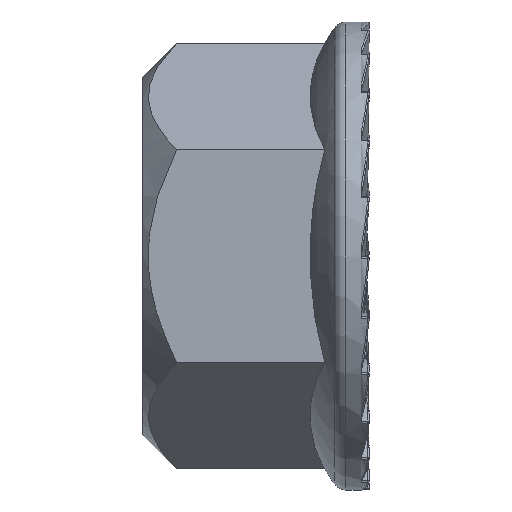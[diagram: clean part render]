
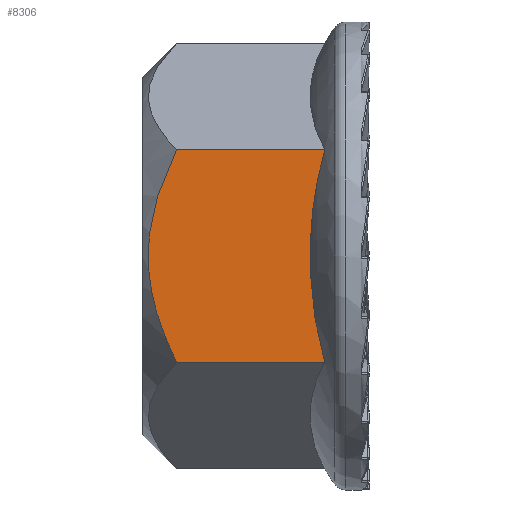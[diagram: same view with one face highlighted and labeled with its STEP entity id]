
A CAD part, left-side view. The second image highlights one B-rep face of the part: STEP entity #8306.
In plain terms, the highlighted planar face has unit normal (-1, 0, 0).
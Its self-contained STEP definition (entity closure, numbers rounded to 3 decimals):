
#76 = AXIS2_PLACEMENT_3D ( 'NONE', #8325, #12414, #1954 ) ;
#109 = CARTESIAN_POINT ( 'NONE',  ( -6.5, 7.48, -0.655 ) ) ;
#239 = CARTESIAN_POINT ( 'NONE',  ( -6.5, 7.314, -1.618 ) ) ;
#472 = CARTESIAN_POINT ( 'NONE',  ( -6.5, 1.28, 3.753 ) ) ;
#622 = VERTEX_POINT ( 'NONE', #472 ) ;
#701 = EDGE_CURVE ( 'NONE', #4524, #622, #6350, .T. ) ;
#747 = B_SPLINE_CURVE_WITH_KNOTS ( 'NONE', 3,
 ( #3367, #2282, #8363, #9397, #8298, #7492, #5376, #10337, #109, #8496, #239, #4248, #7353, #1133 ),
 .UNSPECIFIED., .F., .F.,
 ( 4, 2, 2, 2, 2, 2, 4 ),
 ( 0.009, 0.01, 0.011, 0.013, 0.014, 0.015, 0.017 ),
 .UNSPECIFIED. ) ;
#927 = EDGE_LOOP ( 'NONE', ( #8316, #5084, #11136, #12974 ) ) ;
#1133 = CARTESIAN_POINT ( 'NONE',  ( -6.5, 6.5, -3.753 ) ) ;
#1933 = CARTESIAN_POINT ( 'NONE',  ( -6.5, 1.8, 0.63 ) ) ;
#1954 = DIRECTION ( 'NONE',  ( 0., 0., -1. ) ) ;
#2282 = CARTESIAN_POINT ( 'NONE',  ( -6.5, 6.645, 3.462 ) ) ;
#3020 = CARTESIAN_POINT ( 'NONE',  ( -6.5, 1.459, 3.145 ) ) ;
#3192 = CARTESIAN_POINT ( 'NONE',  ( -6.5, 6.5, 3.753 ) ) ;
#3367 = CARTESIAN_POINT ( 'NONE',  ( -6.5, 6.5, 3.753 ) ) ;
#3487 = VECTOR ( 'NONE', #5324, 1000. ) ;
#4248 = CARTESIAN_POINT ( 'NONE',  ( -6.5, 7.047, -2.557 ) ) ;
#4524 = VERTEX_POINT ( 'NONE', #3192 ) ;
#5051 = CARTESIAN_POINT ( 'NONE',  ( -6.5, 1.759, -1.261 ) ) ;
#5084 = ORIENTED_EDGE ( 'NONE', *, *, #8571, .T. ) ;
#5324 = DIRECTION ( 'NONE',  ( 0., -1., 0. ) ) ;
#5376 = CARTESIAN_POINT ( 'NONE',  ( -6.5, 7.505, 0.663 ) ) ;
#5480 = CARTESIAN_POINT ( 'NONE',  ( -6.5, 7.7, -3.753 ) ) ;
#6067 = CARTESIAN_POINT ( 'NONE',  ( -6.5, 1.8, -0.63 ) ) ;
#6226 = FACE_OUTER_BOUND ( 'NONE', #927, .T. ) ;
#6350 = LINE ( 'NONE', #10486, #3487 ) ;
#6711 = EDGE_CURVE ( 'NONE', #8610, #10246, #7514, .T. ) ;
#7037 = PLANE ( 'NONE',  #76 ) ;
#7082 = CARTESIAN_POINT ( 'NONE',  ( -6.5, 1.59, 2.515 ) ) ;
#7353 = CARTESIAN_POINT ( 'NONE',  ( -6.5, 6.791, -3.17 ) ) ;
#7492 = CARTESIAN_POINT ( 'NONE',  ( -6.5, 7.403, 1.304 ) ) ;
#7514 = LINE ( 'NONE', #5480, #7824 ) ;
#7824 = VECTOR ( 'NONE', #9631, 1000. ) ;
#8159 = CARTESIAN_POINT ( 'NONE',  ( -6.5, 1.28, -3.753 ) ) ;
#8298 = CARTESIAN_POINT ( 'NONE',  ( -6.5, 7.135, 2.246 ) ) ;
#8306 = ADVANCED_FACE ( 'NONE', ( #6226 ), #7037, .F. ) ;
#8316 = ORIENTED_EDGE ( 'NONE', *, *, #701, .F. ) ;
#8325 = CARTESIAN_POINT ( 'NONE',  ( -6.5, 7.7, -3.753 ) ) ;
#8363 = CARTESIAN_POINT ( 'NONE',  ( -6.5, 6.781, 3.166 ) ) ;
#8432 = CARTESIAN_POINT ( 'NONE',  ( -6.5, 1.28, 3.753 ) ) ;
#8496 = CARTESIAN_POINT ( 'NONE',  ( -6.5, 7.384, -1.3 ) ) ;
#8571 = EDGE_CURVE ( 'NONE', #4524, #8610, #747, .T. ) ;
#8610 = VERTEX_POINT ( 'NONE', #9158 ) ;
#9158 = CARTESIAN_POINT ( 'NONE',  ( -6.5, 6.5, -3.753 ) ) ;
#9199 = CARTESIAN_POINT ( 'NONE',  ( -6.5, 1.588, -2.526 ) ) ;
#9397 = CARTESIAN_POINT ( 'NONE',  ( -6.5, 7.026, 2.559 ) ) ;
#9631 = DIRECTION ( 'NONE',  ( 0., -1., 0. ) ) ;
#10224 = EDGE_CURVE ( 'NONE', #622, #10246, #13150, .T. ) ;
#10246 = VERTEX_POINT ( 'NONE', #11293 ) ;
#10337 = CARTESIAN_POINT ( 'NONE',  ( -6.5, 7.506, -0.324 ) ) ;
#10486 = CARTESIAN_POINT ( 'NONE',  ( -6.5, 7.7, 3.753 ) ) ;
#11136 = ORIENTED_EDGE ( 'NONE', *, *, #6711, .T. ) ;
#11224 = CARTESIAN_POINT ( 'NONE',  ( -6.5, 1.759, 1.259 ) ) ;
#11293 = CARTESIAN_POINT ( 'NONE',  ( -6.5, 1.28, -3.753 ) ) ;
#12414 = DIRECTION ( 'NONE',  ( 1., 0., 0. ) ) ;
#12974 = ORIENTED_EDGE ( 'NONE', *, *, #10224, .F. ) ;
#13150 = B_SPLINE_CURVE_WITH_KNOTS ( 'NONE', 3,
 ( #8432, #3020, #7082, #11224, #1933, #6067, #5051, #9199, #13347, #8159 ),
 .UNSPECIFIED., .F., .F.,
 ( 4, 2, 2, 2, 4 ),
 ( 0.012, 0.013, 0.015, 0.017, 0.019 ),
 .UNSPECIFIED. ) ;
#13347 = CARTESIAN_POINT ( 'NONE',  ( -6.5, 1.458, -3.147 ) ) ;
